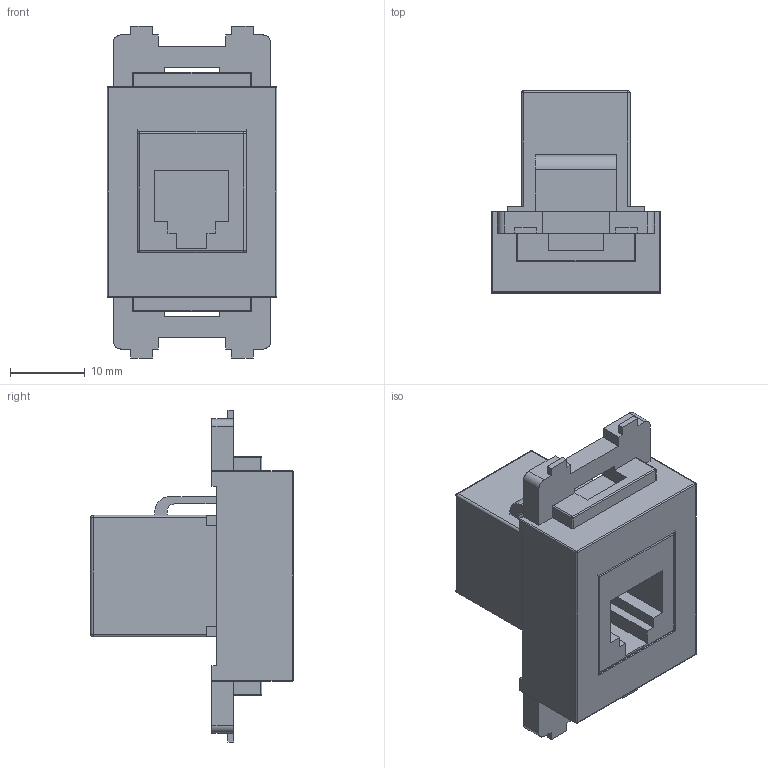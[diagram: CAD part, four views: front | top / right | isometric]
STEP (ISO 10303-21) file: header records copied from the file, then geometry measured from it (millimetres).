
FILE_DESCRIPTION(('FreeCAD Model'),'2;1');
FILE_NAME('Open CASCADE Shape Model','2026-05-11T14:58:32',(''),(''), 'Open CASCADE STEP processor 7.8','FreeCAD','Unknown');
FILE_SCHEMA(('AUTOMOTIVE_DESIGN { 1 0 10303 214 1 1 1 1 }'));
Length unit declared in the file: millimetre
Products named in the file (3): CC_RJ12_BK_KV; SY-NWT-KV-xx; FA-396-6-BK
Assembly tree (2 placements, depth 2):
  CC_RJ12_BK_KV
    SY-NWT-KV-xx
    FA-396-6-BK
Bounding box: 22.65 x 27 x 44.3 mm (x, y, z)
Volume: 7993.5 mm3; surface area: 7916.6 mm2
Topology: 2 solids, 2 shells, 215 faces, 596 edges, 378 vertices
Faces by surface type: bspline 128, plane 61, cylinder 18, sphere 8
Entity records: 8262 total; most frequent: CARTESIAN_POINT 3861, ORIENTED_EDGE 1176, EDGE_CURVE 588, DIRECTION 443, VERTEX_POINT 378, B_SPLINE_CURVE_WITH_KNOTS 361, FACE_BOUND 222, EDGE_LOOP 222
